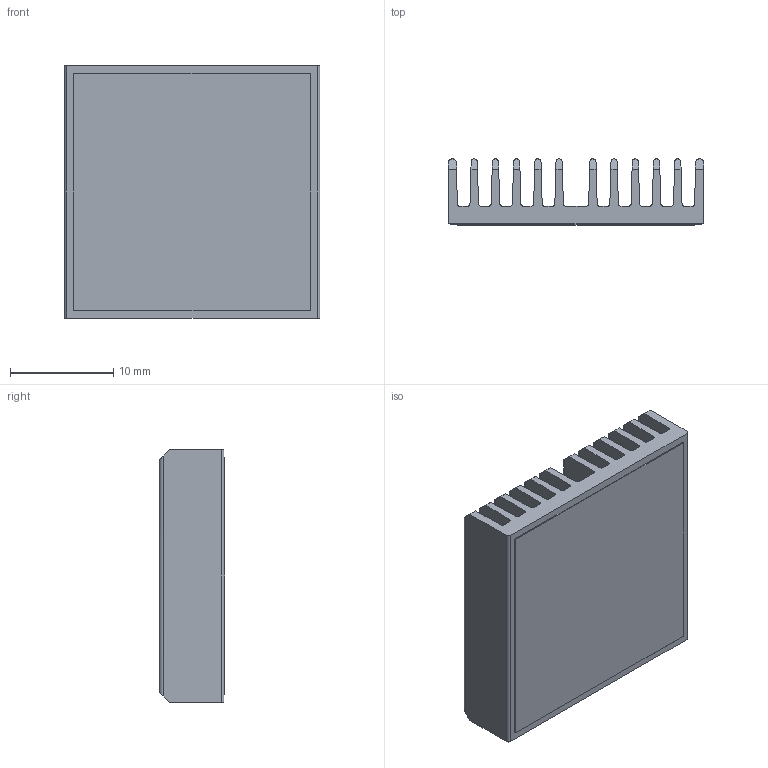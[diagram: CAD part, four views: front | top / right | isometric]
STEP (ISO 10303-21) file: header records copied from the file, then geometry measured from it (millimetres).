
FILE_DESCRIPTION (( 'STEP AP214' ), '1' );
FILE_NAME ('INL25001-6-1.7.STEP', '2023-02-21T19:25:56', ( '' ), ( '' ), 'SwSTEP 2.0', 'SolidWorks 2020', '' );
FILE_SCHEMA (( 'AUTOMOTIVE_DESIGN' ));
Length unit declared in the file: millimetre
Products named in the file (1): INL25001-6-1.7
Bounding box: 24.8 x 6.4 x 24.5 mm (x, y, z)
Volume: 2063.5 mm3; surface area: 5007.6 mm2
Topology: 2 solids, 2 shells, 104 faces, 300 edges, 200 vertices
Faces by surface type: plane 68, cylinder 36
Entity records: 4579 total; most frequent: CARTESIAN_POINT 677, ORIENTED_EDGE 600, DIRECTION 534, EDGE_CURVE 300, VECTOR 228, LINE 228, VERTEX_POINT 200, AXIS2_PLACEMENT_3D 153
